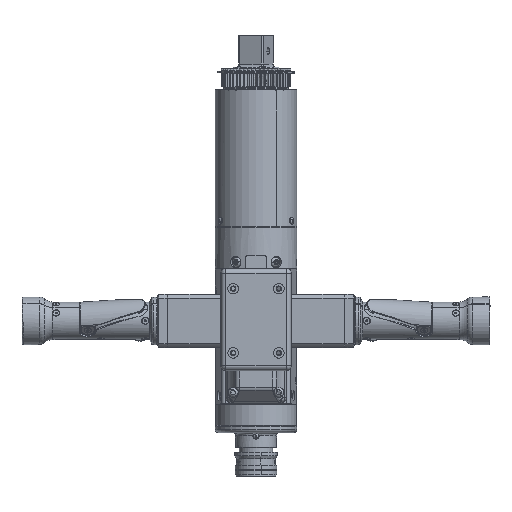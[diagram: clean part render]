
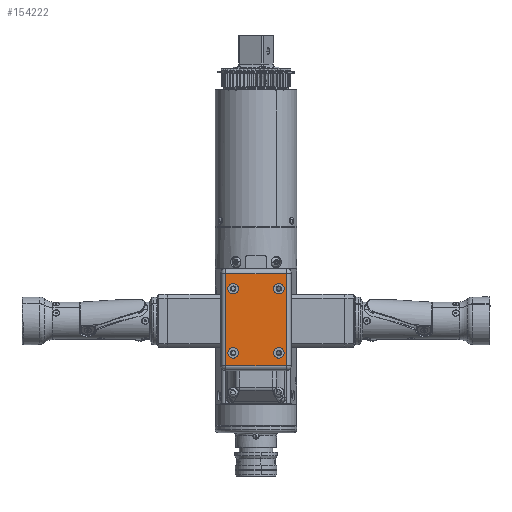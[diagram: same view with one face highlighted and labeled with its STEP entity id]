
A CAD part, front view. The second image highlights one B-rep face of the part: STEP entity #154222.
In plain terms, the highlighted planar face has unit normal (0, -1, 0).
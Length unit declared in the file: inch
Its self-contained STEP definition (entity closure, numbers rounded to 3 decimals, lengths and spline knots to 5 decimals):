
#1649 = ORIENTED_EDGE ( 'NONE', *, *, #65167, .F. ) ;
#1853 = AXIS2_PLACEMENT_3D ( 'NONE', #78484, #171633, #91811 ) ;
#5297 = AXIS2_PLACEMENT_3D ( 'NONE', #53424, #146377, #66788 ) ;
#5545 = CARTESIAN_POINT ( 'NONE',  ( -0.854, -3.7175, -3.15 ) ) ;
#5716 = CARTESIAN_POINT ( 'NONE',  ( -1.125, -3.7175, -0.187 ) ) ;
#6942 = VERTEX_POINT ( 'NONE', #49742 ) ;
#8257 = PLANE ( 'NONE',  #85064 ) ;
#8400 = EDGE_CURVE ( 'NONE', #38415, #105050, #157280, .T. ) ;
#8927 = VERTEX_POINT ( 'NONE', #47324 ) ;
#9109 = CARTESIAN_POINT ( 'NONE',  ( -1.125, -3.7175, -0.187 ) ) ;
#9579 = CARTESIAN_POINT ( 'NONE',  ( -1.125, -3.7175, -3.6245 ) ) ;
#10136 = EDGE_CURVE ( 'NONE', #100160, #38415, #167863, .T. ) ;
#13356 = AXIS2_PLACEMENT_3D ( 'NONE', #5545, #98378, #18865 ) ;
#18246 = EDGE_CURVE ( 'NONE', #8927, #98066, #142670, .T. ) ;
#18865 = DIRECTION ( 'NONE',  ( 0., 0., 1. ) ) ;
#20629 = DIRECTION ( 'NONE',  ( 0., 0., -1. ) ) ;
#22817 = FACE_BOUND ( 'NONE', #70592, .T. ) ;
#23765 = EDGE_LOOP ( 'NONE', ( #51296, #163445 ) ) ;
#25110 = AXIS2_PLACEMENT_3D ( 'NONE', #156255, #76580, #169674 ) ;
#26983 = ORIENTED_EDGE ( 'NONE', *, *, #115216, .F. ) ;
#31950 = VECTOR ( 'NONE', #57303, 39.37008 ) ;
#33394 = VERTEX_POINT ( 'NONE', #77089 ) ;
#34009 = CARTESIAN_POINT ( 'NONE',  ( -1.125, -3.7175, 0.0005 ) ) ;
#35119 = ORIENTED_EDGE ( 'NONE', *, *, #141132, .T. ) ;
#36158 = LINE ( 'NONE', #70595, #31950 ) ;
#38415 = VERTEX_POINT ( 'NONE', #53288 ) ;
#42075 = CIRCLE ( 'NONE', #170324, 0.198 ) ;
#44651 = CARTESIAN_POINT ( 'NONE',  ( 1.125, -3.7175, 0.0005 ) ) ;
#45148 = CARTESIAN_POINT ( 'NONE',  ( 1.125, -3.7175, -3.6245 ) ) ;
#45233 = DIRECTION ( 'NONE',  ( 0., -1., 0. ) ) ;
#47324 = CARTESIAN_POINT ( 'NONE',  ( 0.854, -3.7175, -3.348 ) ) ;
#49742 = CARTESIAN_POINT ( 'NONE',  ( 0.854, -3.7175, -0.948 ) ) ;
#51162 = ORIENTED_EDGE ( 'NONE', *, *, #115791, .T. ) ;
#51296 = ORIENTED_EDGE ( 'NONE', *, *, #58743, .F. ) ;
#52014 = DIRECTION ( 'NONE',  ( 0., -1., 0. ) ) ;
#52499 = LINE ( 'NONE', #34009, #118879 ) ;
#52883 = CARTESIAN_POINT ( 'NONE',  ( 0.854, -3.7175, -0.552 ) ) ;
#53288 = CARTESIAN_POINT ( 'NONE',  ( 1.125, -3.7175, -0.187 ) ) ;
#53424 = CARTESIAN_POINT ( 'NONE',  ( -0.854, -3.7175, -0.75 ) ) ;
#57303 = DIRECTION ( 'NONE',  ( 1., 0., 0. ) ) ;
#58213 = FACE_BOUND ( 'NONE', #128948, .T. ) ;
#58743 = EDGE_CURVE ( 'NONE', #155153, #6942, #151603, .T. ) ;
#59126 = ORIENTED_EDGE ( 'NONE', *, *, #94920, .F. ) ;
#62994 = EDGE_CURVE ( 'NONE', #98066, #8927, #80508, .T. ) ;
#65167 = EDGE_CURVE ( 'NONE', #33394, #155785, #98144, .T. ) ;
#65267 = DIRECTION ( 'NONE',  ( 0., -1., 0. ) ) ;
#65545 = VERTEX_POINT ( 'NONE', #116912 ) ;
#66443 = CARTESIAN_POINT ( 'NONE',  ( 0.854, -3.7175, -2.952 ) ) ;
#66788 = DIRECTION ( 'NONE',  ( 0., 0., 1. ) ) ;
#70490 = CARTESIAN_POINT ( 'NONE',  ( -0.854, -3.7175, -0.552 ) ) ;
#70592 = EDGE_LOOP ( 'NONE', ( #26983, #1649 ) ) ;
#70595 = CARTESIAN_POINT ( 'NONE',  ( 1.3125, -3.7175, -3.6245 ) ) ;
#75058 = CARTESIAN_POINT ( 'NONE',  ( 1.3125, -3.7175, 0.0005 ) ) ;
#76580 = DIRECTION ( 'NONE',  ( 0., -1., 0. ) ) ;
#77089 = CARTESIAN_POINT ( 'NONE',  ( -0.854, -3.7175, -3.348 ) ) ;
#77192 = DIRECTION ( 'NONE',  ( 0., -1., 0. ) ) ;
#77690 = EDGE_LOOP ( 'NONE', ( #116326, #59126 ) ) ;
#78484 = CARTESIAN_POINT ( 'NONE',  ( 0.854, -3.7175, -3.15 ) ) ;
#80508 = CIRCLE ( 'NONE', #1853, 0.198 ) ;
#85064 = AXIS2_PLACEMENT_3D ( 'NONE', #75058, #168171, #88408 ) ;
#88408 = DIRECTION ( 'NONE',  ( 0., 0., 1. ) ) ;
#89290 = FACE_OUTER_BOUND ( 'NONE', #161154, .T. ) ;
#91811 = DIRECTION ( 'NONE',  ( 0., 0., 1. ) ) ;
#92310 = AXIS2_PLACEMENT_3D ( 'NONE', #144843, #65267, #158204 ) ;
#92800 = VECTOR ( 'NONE', #98579, 39.37008 ) ;
#93441 = FACE_BOUND ( 'NONE', #77690, .T. ) ;
#94920 = EDGE_CURVE ( 'NONE', #65545, #95616, #129241, .T. ) ;
#95616 = VERTEX_POINT ( 'NONE', #70490 ) ;
#96652 = CARTESIAN_POINT ( 'NONE',  ( -0.854, -3.7175, -2.952 ) ) ;
#97259 = EDGE_CURVE ( 'NONE', #95616, #65545, #164381, .T. ) ;
#97287 = AXIS2_PLACEMENT_3D ( 'NONE', #124782, #45233, #138198 ) ;
#98066 = VERTEX_POINT ( 'NONE', #66443 ) ;
#98144 = CIRCLE ( 'NONE', #13356, 0.198 ) ;
#98378 = DIRECTION ( 'NONE',  ( 0., -1., 0. ) ) ;
#98579 = DIRECTION ( 'NONE',  ( 0., 0., 1. ) ) ;
#100160 = VERTEX_POINT ( 'NONE', #45148 ) ;
#105050 = VERTEX_POINT ( 'NONE', #9109 ) ;
#112744 = VECTOR ( 'NONE', #118214, 39.37008 ) ;
#115216 = EDGE_CURVE ( 'NONE', #155785, #33394, #160044, .T. ) ;
#115791 = EDGE_CURVE ( 'NONE', #105050, #143846, #52499, .T. ) ;
#116326 = ORIENTED_EDGE ( 'NONE', *, *, #97259, .F. ) ;
#116567 = ORIENTED_EDGE ( 'NONE', *, *, #8400, .T. ) ;
#116912 = CARTESIAN_POINT ( 'NONE',  ( -0.854, -3.7175, -0.948 ) ) ;
#118214 = DIRECTION ( 'NONE',  ( -1., 0., 0. ) ) ;
#118879 = VECTOR ( 'NONE', #20629, 39.37008 ) ;
#122374 = ORIENTED_EDGE ( 'NONE', *, *, #10136, .T. ) ;
#124782 = CARTESIAN_POINT ( 'NONE',  ( -0.854, -3.7175, -0.75 ) ) ;
#126075 = EDGE_CURVE ( 'NONE', #6942, #155153, #42075, .T. ) ;
#128948 = EDGE_LOOP ( 'NONE', ( #153296, #163153 ) ) ;
#129241 = CIRCLE ( 'NONE', #97287, 0.198 ) ;
#131583 = CARTESIAN_POINT ( 'NONE',  ( 0.854, -3.7175, -0.75 ) ) ;
#138198 = DIRECTION ( 'NONE',  ( 0., 0., 1. ) ) ;
#141132 = EDGE_CURVE ( 'NONE', #143846, #100160, #36158, .T. ) ;
#142670 = CIRCLE ( 'NONE', #92310, 0.198 ) ;
#143846 = VERTEX_POINT ( 'NONE', #9579 ) ;
#144843 = CARTESIAN_POINT ( 'NONE',  ( 0.854, -3.7175, -3.15 ) ) ;
#144995 = DIRECTION ( 'NONE',  ( 0., 0., 1. ) ) ;
#146377 = DIRECTION ( 'NONE',  ( 0., -1., 0. ) ) ;
#151603 = CIRCLE ( 'NONE', #170779, 0.198 ) ;
#153296 = ORIENTED_EDGE ( 'NONE', *, *, #62994, .F. ) ;
#154222 = ADVANCED_FACE ( 'NONE', ( #22817, #58213, #160105, #93441, #89290 ), #8257, .T. ) ;
#155153 = VERTEX_POINT ( 'NONE', #52883 ) ;
#155785 = VERTEX_POINT ( 'NONE', #96652 ) ;
#156255 = CARTESIAN_POINT ( 'NONE',  ( -0.854, -3.7175, -3.15 ) ) ;
#156880 = CARTESIAN_POINT ( 'NONE',  ( 0.854, -3.7175, -0.75 ) ) ;
#157280 = LINE ( 'NONE', #5716, #112744 ) ;
#158204 = DIRECTION ( 'NONE',  ( 0., 0., 1. ) ) ;
#160044 = CIRCLE ( 'NONE', #25110, 0.198 ) ;
#160105 = FACE_BOUND ( 'NONE', #23765, .T. ) ;
#161154 = EDGE_LOOP ( 'NONE', ( #122374, #116567, #51162, #35119 ) ) ;
#163153 = ORIENTED_EDGE ( 'NONE', *, *, #18246, .F. ) ;
#163445 = ORIENTED_EDGE ( 'NONE', *, *, #126075, .F. ) ;
#164381 = CIRCLE ( 'NONE', #5297, 0.198 ) ;
#167863 = LINE ( 'NONE', #44651, #92800 ) ;
#168171 = DIRECTION ( 'NONE',  ( 0., -1., 0. ) ) ;
#169674 = DIRECTION ( 'NONE',  ( 0., 0., 1. ) ) ;
#170294 = DIRECTION ( 'NONE',  ( 0., 0., 1. ) ) ;
#170324 = AXIS2_PLACEMENT_3D ( 'NONE', #131583, #52014, #144995 ) ;
#170779 = AXIS2_PLACEMENT_3D ( 'NONE', #156880, #77192, #170294 ) ;
#171633 = DIRECTION ( 'NONE',  ( 0., -1., 0. ) ) ;
